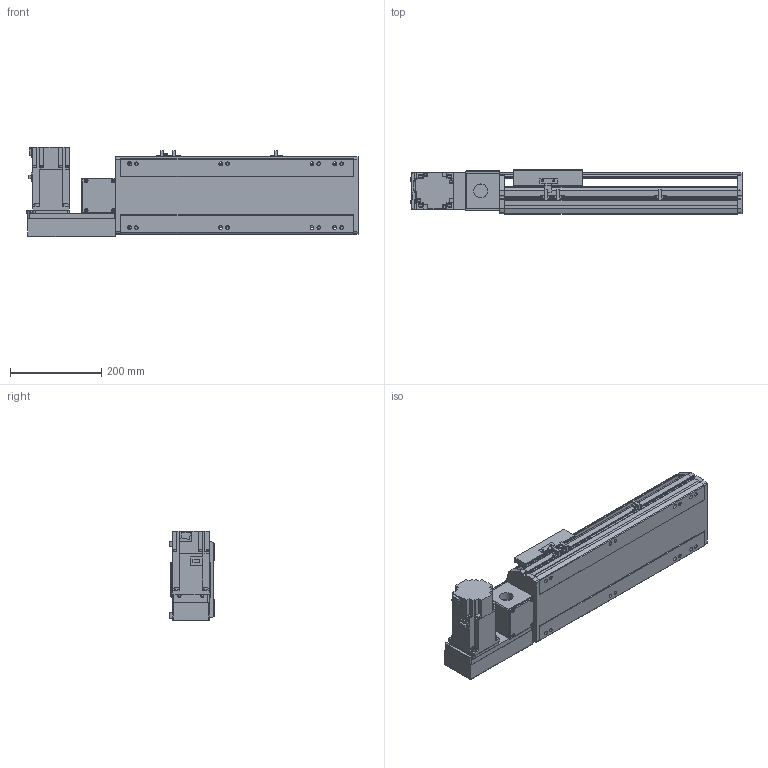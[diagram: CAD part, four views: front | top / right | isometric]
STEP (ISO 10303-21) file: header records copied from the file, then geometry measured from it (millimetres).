
FILE_DESCRIPTION( ( 'STEP AP214' ), '1' );
FILE_NAME( 'x:/temp/worker_4/temp/exporttempdir_2248_191_48Vrs/format_0/PBS170-P40-S250-L-T75-C1-N(0).stp', '2022-06-07T06:33:40', ( 'License CC BY-ND 4.0' ), ( 'CADENAS' ), ' ', 'PARTsolutions', ' ' );
FILE_SCHEMA( ( 'AUTOMOTIVE_DESIGN { 1 0 10303 214 1 1 1 1 }' ) );
Length unit declared in the file: millimetre
Products named in the file (7): PBS170-P40-S250-L-T75-C1-N(0); _PBS170-S250()_body; _PBS170T-L_motors; _T75-p1; _PBS170_sliser; _PBS170_plant; _PBS170_sensor
Assembly tree (8 placements, depth 2):
  PBS170-P40-S250-L-T75-C1-N(0)
    _PBS170-S250()_body
    _PBS170T-L_motors
    _T75-p1
    _PBS170_sliser
    _PBS170_plant
    _PBS170_sensor  x3
Bounding box: 728 x 97 x 197.3 mm (x, y, z)
Volume: 5643707.8 mm3; surface area: 796494.5 mm2
Topology: 8 solids, 8 shells, 1018 faces, 2715 edges, 1770 vertices
Faces by surface type: plane 663, cylinder 307, cone 38, sphere 8, torus 2
Full cylindrical faces by diameter (mm): 3.242 x4, 4 x2, 4.4 x4, 4.5 x6, 4.917 x4, 6 x9, 6.647 x16, 7 x2, 7.5 x4, 8 x8, 8.5 x8, 10 x4, 10.5 x8, 11 x2, 30 x2, 40 x1, 70 x1
Entity records: 37172 total; most frequent: CARTESIAN_POINT 5549, DIRECTION 5020, ORIENTED_EDGE 4788, EDGE_CURVE 2394, AXIS2_PLACEMENT_3D 1717, VERTEX_POINT 1634, LINE 1586, VECTOR 1586
